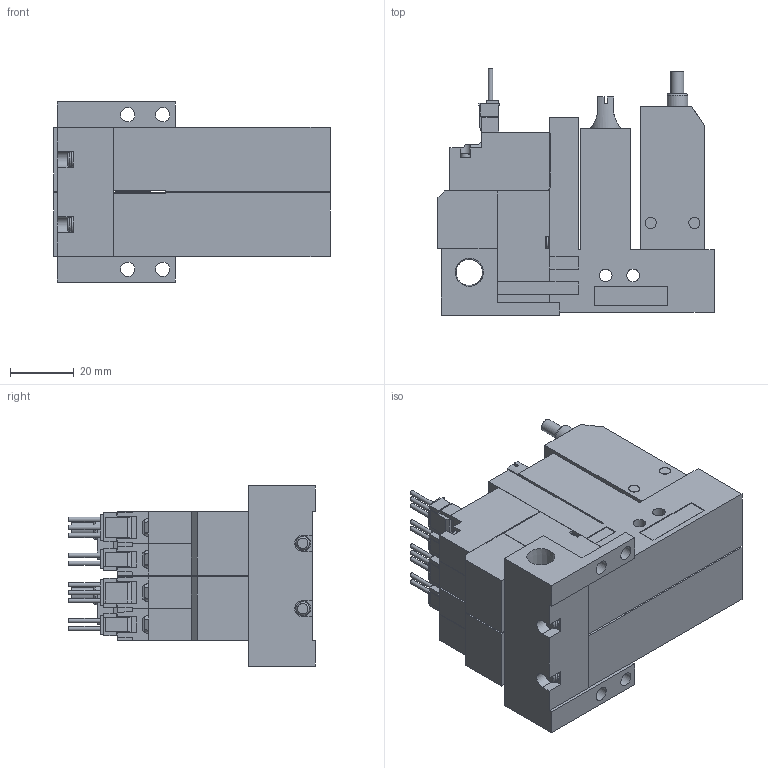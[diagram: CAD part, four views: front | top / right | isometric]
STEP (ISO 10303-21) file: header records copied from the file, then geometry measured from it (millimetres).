
FILE_DESCRIPTION(('STEP AP203'),'1');
FILE_NAME('ABS_ABPL5WLR202.stp','2025-02-18T06:59:47',(' '),(' '),'Spatial InterOp 3D',' ',' ');
FILE_SCHEMA(('CONFIG_CONTROL_DESIGN'));
Length unit declared in the file: millimetre
Products named in the file (5): BMC22M※※※※ABS_ABPL5WLR202; Solenoid valve W; Pressure sensor ABSL; Unit L; Base MR20R
Assembly tree (7 placements, depth 2):
  BMC22M※※※※ABS_ABPL5WLR202
    Solenoid valve W  x2
    Pressure sensor ABSL  x2
    Unit L  x2
    Base MR20R
Bounding box: 86.6 x 77.45 x 56.5 mm (x, y, z)
Volume: 184102.3 mm3; surface area: 52226.5 mm2
Topology: 7 solids, 7 shells, 733 faces, 1965 edges, 1298 vertices
Faces by surface type: plane 618, cylinder 91, cone 16, torus 8
Full cylindrical faces by diameter (mm): 1.4 x10, 2.5 x2, 3 x8, 3.5 x12, 3.6 x2, 4 x6, 4.134 x2, 4.5 x4, 5.2 x2, 6 x2, 6.5 x2, 6.6 x2, 8.279 x1
Entity records: 12168 total; most frequent: CARTESIAN_POINT 2239, ORIENTED_EDGE 1954, DIRECTION 1928, EDGE_CURVE 977, LINE 818, VECTOR 818, VERTEX_POINT 676, AXIS2_PLACEMENT_3D 555
